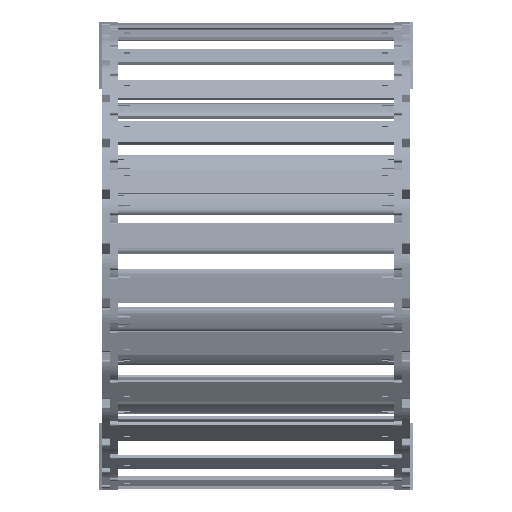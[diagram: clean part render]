
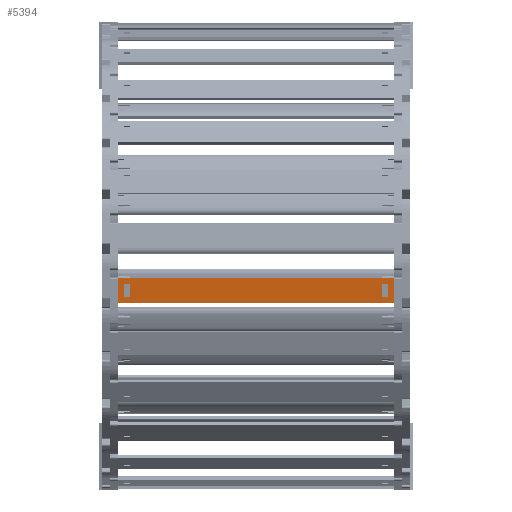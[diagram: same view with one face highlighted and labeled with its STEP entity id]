
A CAD part, left-side view. The second image highlights one B-rep face of the part: STEP entity #5394.
In plain terms, the highlighted planar face has unit normal (-0.989, 0, -0.146) as drawn and (0, 1, 0) by its records, which use the part's own axes.
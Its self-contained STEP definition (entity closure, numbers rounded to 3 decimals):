
#4814=DIRECTION('',(0.,0.,1.));
#4815=VECTOR('',#4814,15.8);
#4816=CARTESIAN_POINT('',(161.24,1.5,-7.9));
#4817=LINE('',#4816,#4815);
#4818=DIRECTION('',(-1.,0.,0.));
#4819=VECTOR('',#4818,176.);
#4820=CARTESIAN_POINT('',(161.24,1.5,7.9));
#4821=LINE('',#4820,#4819);
#4822=DIRECTION('',(0.,0.,-1.));
#4823=VECTOR('',#4822,15.8);
#4824=CARTESIAN_POINT('',(-14.76,1.5,7.9));
#4825=LINE('',#4824,#4823);
#4826=DIRECTION('',(1.,0.,0.));
#4827=VECTOR('',#4826,3.648);
#4828=CARTESIAN_POINT('',(153.622,1.5,4.075));
#4829=LINE('',#4828,#4827);
#4830=DIRECTION('',(0.,0.,-1.));
#4831=VECTOR('',#4830,8.15);
#4832=CARTESIAN_POINT('',(157.27,1.5,4.075));
#4833=LINE('',#4832,#4831);
#4834=DIRECTION('',(-1.,0.,0.));
#4835=VECTOR('',#4834,3.648);
#4836=CARTESIAN_POINT('',(157.27,1.5,-4.075));
#4837=LINE('',#4836,#4835);
#4838=DIRECTION('',(0.,0.,-1.));
#4839=VECTOR('',#4838,8.15);
#4840=CARTESIAN_POINT('',(-7.142,1.5,4.075));
#4841=LINE('',#4840,#4839);
#4842=DIRECTION('',(-1.,0.,0.));
#4843=VECTOR('',#4842,3.648);
#4844=CARTESIAN_POINT('',(-7.142,1.5,-4.075));
#4845=LINE('',#4844,#4843);
#4846=DIRECTION('',(0.,0.,1.));
#4847=VECTOR('',#4846,8.15);
#4848=CARTESIAN_POINT('',(-10.79,1.5,-4.075));
#4849=LINE('',#4848,#4847);
#4850=DIRECTION('',(1.,0.,0.));
#4851=VECTOR('',#4850,3.648);
#4852=CARTESIAN_POINT('',(-10.79,1.5,4.075));
#4853=LINE('',#4852,#4851);
#4858=DIRECTION('',(-1.,0.,0.));
#4859=VECTOR('',#4858,176.);
#4860=CARTESIAN_POINT('',(161.24,1.5,-7.9));
#4861=LINE('',#4860,#4859);
#4979=DIRECTION('',(0.,0.,-1.));
#4980=VECTOR('',#4979,8.15);
#4981=CARTESIAN_POINT('',(153.622,1.5,4.075));
#4982=LINE('',#4981,#4980);
#5164=CARTESIAN_POINT('',(157.27,1.5,4.075));
#5165=VERTEX_POINT('',#5164);
#5166=CARTESIAN_POINT('',(153.622,1.5,4.075));
#5167=VERTEX_POINT('',#5166);
#5208=CARTESIAN_POINT('',(153.622,1.5,-4.075));
#5209=VERTEX_POINT('',#5208);
#5210=CARTESIAN_POINT('',(157.27,1.5,-4.075));
#5211=VERTEX_POINT('',#5210);
#5212=CARTESIAN_POINT('',(161.24,1.5,7.9));
#5214=VERTEX_POINT('',#5212);
#5216=CARTESIAN_POINT('',(161.24,1.5,-7.9));
#5217=VERTEX_POINT('',#5216);
#5240=CARTESIAN_POINT('',(-7.142,1.5,4.075));
#5241=CARTESIAN_POINT('',(-7.142,1.5,-4.075));
#5242=VERTEX_POINT('',#5240);
#5243=VERTEX_POINT('',#5241);
#5244=CARTESIAN_POINT('',(-10.79,1.5,-4.075));
#5245=VERTEX_POINT('',#5244);
#5246=CARTESIAN_POINT('',(-10.79,1.5,4.075));
#5247=VERTEX_POINT('',#5246);
#5248=CARTESIAN_POINT('',(-14.76,1.5,7.9));
#5249=VERTEX_POINT('',#5248);
#5252=CARTESIAN_POINT('',(-14.76,1.5,-7.9));
#5253=VERTEX_POINT('',#5252);
#5363=CARTESIAN_POINT('',(192.98,1.5,10.061));
#5364=DIRECTION('',(0.,-1.,0.));
#5365=DIRECTION('',(0.,0.,-1.));
#5366=AXIS2_PLACEMENT_3D('',#5363,#5364,#5365);
#5367=PLANE('',#5366);
#5368=ORIENTED_EDGE('',*,*,#5302,.T.);
#5369=ORIENTED_EDGE('',*,*,#5328,.T.);
#5370=ORIENTED_EDGE('',*,*,#5341,.T.);
#5372=ORIENTED_EDGE('',*,*,#5371,.F.);
#5373=EDGE_LOOP('',(#5368,#5369,#5370,#5372));
#5374=FACE_OUTER_BOUND('',#5373,.F.);
#5376=ORIENTED_EDGE('',*,*,#5375,.F.);
#5377=ORIENTED_EDGE('',*,*,#5265,.T.);
#5379=ORIENTED_EDGE('',*,*,#5378,.T.);
#5381=ORIENTED_EDGE('',*,*,#5380,.T.);
#5382=EDGE_LOOP('',(#5376,#5377,#5379,#5381));
#5383=FACE_BOUND('',#5382,.F.);
#5385=ORIENTED_EDGE('',*,*,#5384,.T.);
#5387=ORIENTED_EDGE('',*,*,#5386,.T.);
#5389=ORIENTED_EDGE('',*,*,#5388,.T.);
#5391=ORIENTED_EDGE('',*,*,#5390,.T.);
#5392=EDGE_LOOP('',(#5385,#5387,#5389,#5391));
#5393=FACE_BOUND('',#5392,.F.);
#5394=ADVANCED_FACE('',(#5374,#5383,#5393),#5367,.F.);
#5265=EDGE_CURVE('',#5167,#5165,#4829,.T.);
#5302=EDGE_CURVE('',#5217,#5214,#4817,.T.);
#5328=EDGE_CURVE('',#5214,#5249,#4821,.T.);
#5341=EDGE_CURVE('',#5249,#5253,#4825,.T.);
#5371=EDGE_CURVE('',#5217,#5253,#4861,.T.);
#5375=EDGE_CURVE('',#5167,#5209,#4982,.T.);
#5378=EDGE_CURVE('',#5165,#5211,#4833,.T.);
#5380=EDGE_CURVE('',#5211,#5209,#4837,.T.);
#5384=EDGE_CURVE('',#5242,#5243,#4841,.T.);
#5386=EDGE_CURVE('',#5243,#5245,#4845,.T.);
#5388=EDGE_CURVE('',#5245,#5247,#4849,.T.);
#5390=EDGE_CURVE('',#5247,#5242,#4853,.T.);
